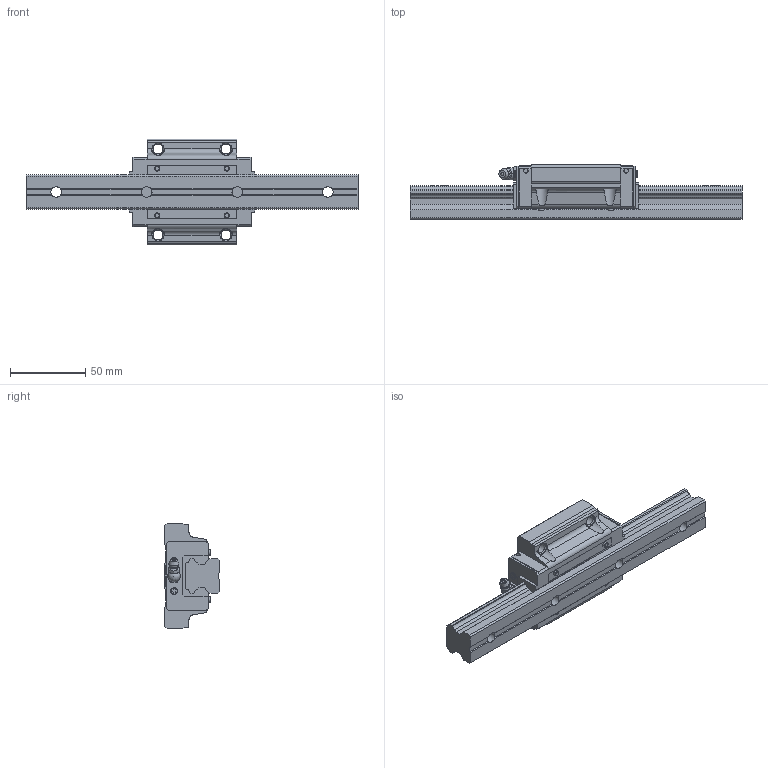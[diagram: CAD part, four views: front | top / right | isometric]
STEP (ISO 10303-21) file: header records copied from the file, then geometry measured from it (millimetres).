
FILE_DESCRIPTION(/* description */ ('STEP AP203'),/* implementation_level */ '2;1');
FILE_NAME(/* name */ 'HSR25M2A1SS-220L_G20_0_B-M6F_68-45_0_0_0',/* time_stamp */ '2024-05-23T08:55:55+02:00',/* author */ ('License CC BY-ND 4.0'),/* organization */ ('CADENAS'),/* preprocessor_version */ 'ST-DEVELOPER v19.3',/* originating_system */ 'PARTsolutions',/* authorisation */ ' ');
FILE_SCHEMA (('CONFIG_CONTROL_DESIGN'));
Length unit declared in the file: millimetre
Products named in the file (4): HSR25M2A1SS-220L_G20_0_B-M6F_68-45_0_0_0; HSR25M2A122020 Rail; HSR25M2ASSB-M6F Slider; hsr_ftht_B-M6F_grease_nipple_joint
Assembly tree (3 placements, depth 2):
  HSR25M2A1SS-220L_G20_0_B-M6F_68-45_0_0_0
    HSR25M2A122020 Rail
    HSR25M2ASSB-M6F Slider
    hsr_ftht_B-M6F_grease_nipple_joint
Bounding box: 220 x 36 x 70 mm (x, y, z)
Volume: 195677.6 mm3; surface area: 45621.4 mm2
Topology: 3 solids, 3 shells, 322 faces, 850 edges, 551 vertices
Faces by surface type: plane 230, cylinder 58, cone 21, torus 10, sphere 3
Full cylindrical faces by diameter (mm): 3 x4, 3.518 x4, 4.5 x4, 4.917 x2, 6 x1, 6.2 x2, 6.647 x4, 7 x4, 8 x1, 11 x4
Entity records: 9659 total; most frequent: CARTESIAN_POINT 1795, DIRECTION 1582, ORIENTED_EDGE 1552, EDGE_CURVE 776, LINE 550, VECTOR 550, VERTEX_POINT 537, AXIS2_PLACEMENT_3D 516
